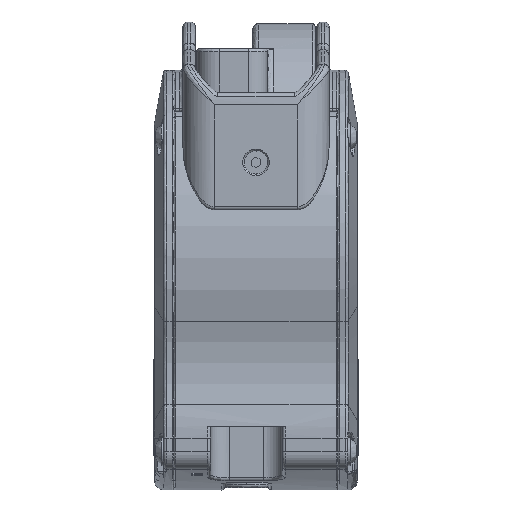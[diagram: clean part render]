
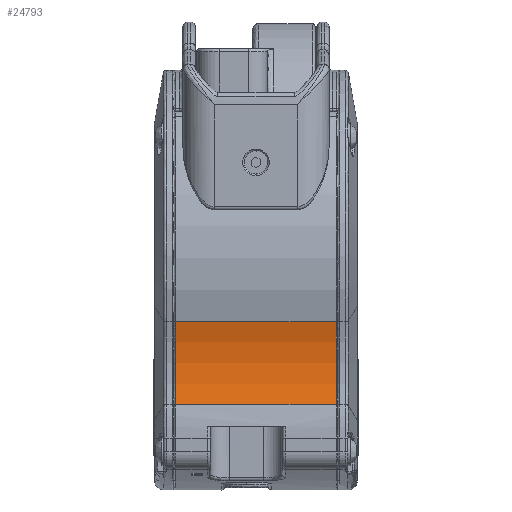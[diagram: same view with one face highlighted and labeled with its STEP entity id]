
A CAD part, left-side view. The second image highlights one B-rep face of the part: STEP entity #24793.
In plain terms, the highlighted cylindrical face has radius 45 mm (diameter 90 mm), a partial arc.
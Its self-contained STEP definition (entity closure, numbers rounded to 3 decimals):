
#4782 = ORIENTED_EDGE ( 'NONE', *, *, #9443, .F. ) ;
#5112 = VECTOR ( 'NONE', #14360, 1000. ) ;
#7065 = CARTESIAN_POINT ( 'NONE',  ( -102.945, 25.75, 30.96 ) ) ;
#8840 = EDGE_LOOP ( 'NONE', ( #71672, #4782, #54956, #71919 ) ) ;
#9443 = EDGE_CURVE ( 'NONE', #81248, #56145, #64821, .T. ) ;
#10088 = CIRCLE ( 'NONE', #88091, 45. ) ;
#14360 = DIRECTION ( 'NONE',  ( 0., -1., 0. ) ) ;
#17614 = DIRECTION ( 'NONE',  ( 0., 0., -1. ) ) ;
#21102 = DIRECTION ( 'NONE',  ( 0., 0., -1. ) ) ;
#24793 = ADVANCED_FACE ( 'NONE', ( #100858 ), #63072, .F. ) ;
#27031 = VERTEX_POINT ( 'NONE', #53735 ) ;
#32251 = CARTESIAN_POINT ( 'NONE',  ( -59.852, -26.5, 18. ) ) ;
#45643 = CARTESIAN_POINT ( 'NONE',  ( -60.085, 161.29, 44.673 ) ) ;
#48962 = AXIS2_PLACEMENT_3D ( 'NONE', #7065, #80511, #17614 ) ;
#49668 = CARTESIAN_POINT ( 'NONE',  ( -59.852, -25.75, 18. ) ) ;
#51389 = CARTESIAN_POINT ( 'NONE',  ( -102.945, -25.75, 30.96 ) ) ;
#51923 = CARTESIAN_POINT ( 'NONE',  ( -102.945, 161.29, 30.96 ) ) ;
#53735 = CARTESIAN_POINT ( 'NONE',  ( -60.085, -25.75, 44.673 ) ) ;
#54956 = ORIENTED_EDGE ( 'NONE', *, *, #59492, .F. ) ;
#56145 = VERTEX_POINT ( 'NONE', #57676 ) ;
#57676 = CARTESIAN_POINT ( 'NONE',  ( -60.085, 25.75, 44.673 ) ) ;
#59492 = EDGE_CURVE ( 'NONE', #96980, #81248, #59760, .T. ) ;
#59760 = LINE ( 'NONE', #32251, #84442 ) ;
#61949 = DIRECTION ( 'NONE',  ( 0., 0., -1. ) ) ;
#63072 = CYLINDRICAL_SURFACE ( 'NONE', #110356, 45. ) ;
#64821 = CIRCLE ( 'NONE', #48962, 45. ) ;
#71672 = ORIENTED_EDGE ( 'NONE', *, *, #74566, .F. ) ;
#71919 = ORIENTED_EDGE ( 'NONE', *, *, #92260, .F. ) ;
#74566 = EDGE_CURVE ( 'NONE', #56145, #27031, #116999, .T. ) ;
#80511 = DIRECTION ( 'NONE',  ( 0., -1., 0. ) ) ;
#81248 = VERTEX_POINT ( 'NONE', #130364 ) ;
#84442 = VECTOR ( 'NONE', #95131, 1000. ) ;
#88091 = AXIS2_PLACEMENT_3D ( 'NONE', #51389, #124903, #61949 ) ;
#92260 = EDGE_CURVE ( 'NONE', #27031, #96980, #10088, .T. ) ;
#95131 = DIRECTION ( 'NONE',  ( 0., 1., 0. ) ) ;
#96980 = VERTEX_POINT ( 'NONE', #49668 ) ;
#100858 = FACE_OUTER_BOUND ( 'NONE', #8840, .T. ) ;
#104767 = DIRECTION ( 'NONE',  ( 0., -1., 0. ) ) ;
#110356 = AXIS2_PLACEMENT_3D ( 'NONE', #51923, #104767, #21102 ) ;
#116999 = LINE ( 'NONE', #45643, #5112 ) ;
#124903 = DIRECTION ( 'NONE',  ( 0., 1., 0. ) ) ;
#130364 = CARTESIAN_POINT ( 'NONE',  ( -59.852, 25.75, 18. ) ) ;
